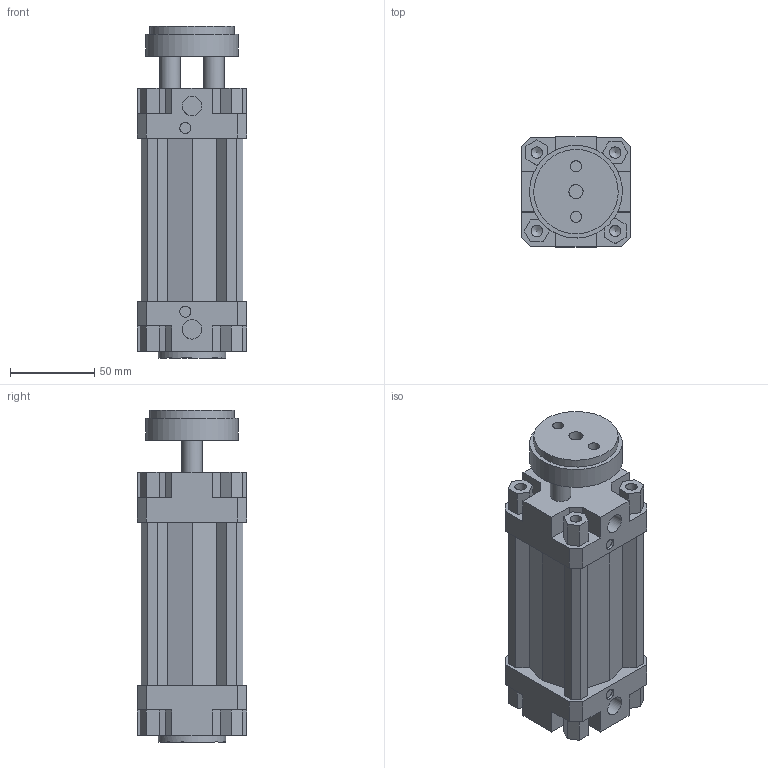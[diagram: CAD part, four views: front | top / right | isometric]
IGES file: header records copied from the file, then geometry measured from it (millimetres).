
Global section: file name: 132#_050_0050_01; native system: Autodesk Inventor 2014; preprocessor: unknown; author: A. Manieri; date: 20161006.155649; units: millimetre
Bounding box: 65 x 65 x 197 mm (x, y, z)
Volume: 465336.9 mm3; surface area: 108262.3 mm2
Topology: 2 solids, 2 shells, 180 faces, 492 edges, 336 vertices
Faces by surface type: bspline 180
